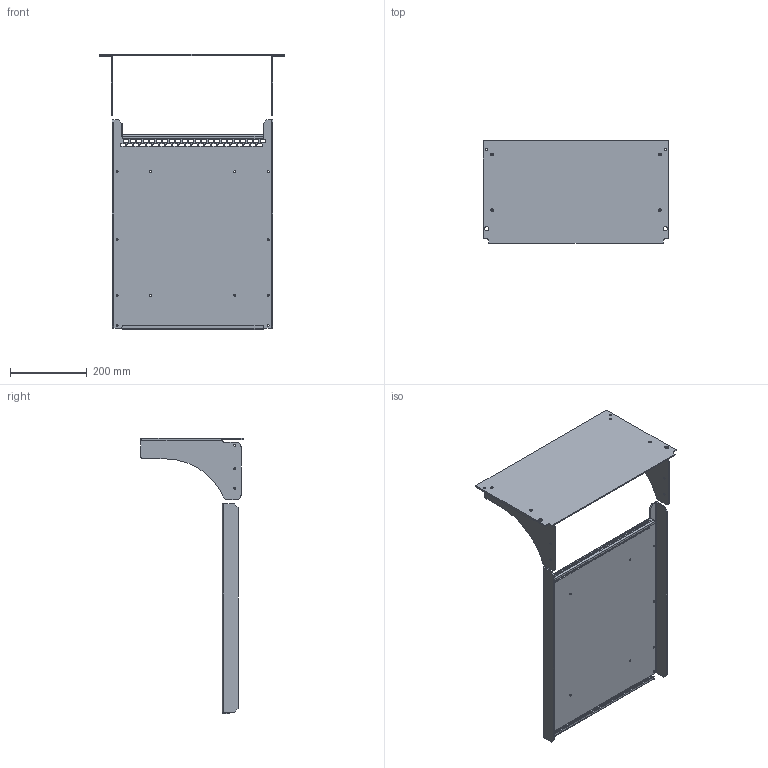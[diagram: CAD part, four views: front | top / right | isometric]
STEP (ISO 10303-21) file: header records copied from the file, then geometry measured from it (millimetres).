
FILE_DESCRIPTION (( 'STEP AP203' ), '1' );
FILE_NAME ('310113585.STEP', '2014-02-17T15:13:32', ( 'VPC Computer Systems' ), ( 'Virginia Panel Corporation' ), 'SwSTEP 2.0', 'SolidWorks 2013', '' );
FILE_SCHEMA (( 'CONFIG_CONTROL_DESIGN' ));
Length unit declared in the file: inch
Products named in the file (1): 310113585
Bounding box: 482.6 x 266.7 x 716.92 mm (x, y, z)
Volume: 1345605 mm3; surface area: 892853 mm2
Topology: 2 solids, 2 shells, 969 faces, 2776 edges, 1828 vertices
Faces by surface type: cylinder 482, plane 463, cone 24
Entity records: 32407 total; most frequent: DIRECTION 5704, CARTESIAN_POINT 5586, ORIENTED_EDGE 5552, EDGE_CURVE 2776, AXIS2_PLACEMENT_3D 1962, VERTEX_POINT 1828, LINE 1780, VECTOR 1780
